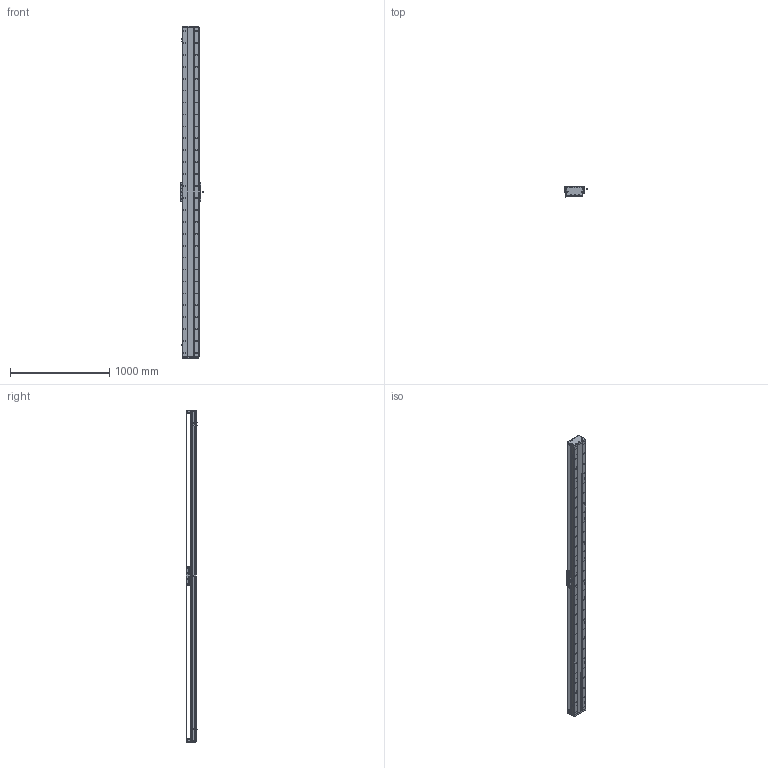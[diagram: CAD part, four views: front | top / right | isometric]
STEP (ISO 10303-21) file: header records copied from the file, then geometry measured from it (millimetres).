
FILE_DESCRIPTION (( 'STEP AP203' ), '1' );
FILE_NAME ('DA-C165-C2-T3060-C010-0.2 直线电机.STEP', '2023-05-11T07:54:47', ( '微软用户' ), ( '微软中国' ), 'SwSTEP 2.0', 'SolidWorks 2019', '' );
FILE_SCHEMA (( 'CONFIG_CONTROL_DESIGN' ));
Length unit declared in the file: millimetre
Products named in the file (18): 珨极趙賑雄怢啣wf-C2; 葩璃 CKM01-W075-TRL^DA-C165-C2-T-C010-0.2-N 眻盄萇儂; 复件 XD-U-02L 磁栅尺^DA-C165-C2-T-C010-0.2-N 直线电机_T; 葩璃 PM-T45^DA-C165-C2-T-C010-0.2-N 眻盄萇儂; DA-C165-C2-T3060-C010-0.2 眻盄萇儂; 复件 DMA-010-0.2 读数头^DA-C165-C2-T-C010-0.2-N 直线电机; 复件 CKM02-W075-C1C2-TP-3.0 一体电机-C2^DA-C165-C2-T-C010-0.2-N 直线电机; 复件 DA165-GYP-00 光电感应片^DA-C165-C2-T-C010-0.2-N 直线电机; 复件 六角薄螺母 M3^DA-C165-C2-T-C010-0.2-N 直线电机_GB_FASTENER_NUT_STNAB M3-C; 复件 DA165-GD-DG-H-00 端盖^复件 CU165钢带组件_DA-C165-C2-T-C010-0.2-N 直线电机; 复件 DA165-GDLK-00 钢带拉块^复件 CU165钢带组件_DA-C165-C2-T-C010-0.2-N 直线电机; 复件 DA165-GDYK-00 钢带压块^复件 CU165钢带组件_DA-C165-C2-T-C010-0.2-N 直线电机; 复件 CU165钢带组件^DA-C165-C2-T-C010-0.2-N 直线电机; IU-CU165-L-00 菁釱_L3300; 复件 DA95-HXJ-00 缓冲橡胶^DA-C165-C2-T-C010-0.2-N 直线电机; 葩璃 DA95-GT-T-00^IU-CU165-L 菁釱絳寢_T; 复件 DA165-GD-1860-002-00 钢带盖板^复件 CU165钢带组件_DA-C165-C2-T-C010-0.2-N 直线电机; IU-CU165-L 菁釱絳寢
Assembly tree (33 placements, depth 3):
  DA-C165-C2-T3060-C010-0.2 眻盄萇儂
    IU-CU165-L 菁釱絳寢
      IU-CU165-L-00 菁釱_L3300
      葩璃 DA95-GT-T-00^IU-CU165-L 菁釱絳寢_T  x4
    复件 XD-U-02L 磁栅尺^DA-C165-C2-T-C010-0.2-N 直线电机_T
    葩璃 PM-T45^DA-C165-C2-T-C010-0.2-N 眻盄萇儂  x3
    葩璃 CKM01-W075-TRL^DA-C165-C2-T-C010-0.2-N 眻盄萇儂
    复件 CU165钢带组件^DA-C165-C2-T-C010-0.2-N 直线电机
      复件 DA165-GD-DG-H-00 端盖^复件 CU165钢带组件_DA-C165-C2-T-C010-0.2-N 直线电机  x2
      复件 DA165-GDYK-00 钢带压块^复件 CU165钢带组件_DA-C165-C2-T-C010-0.2-N 直线电机  x2
      复件 DA165-GD-1860-002-00 钢带盖板^复件 CU165钢带组件_DA-C165-C2-T-C010-0.2-N 直线电机
      复件 DA165-GDLK-00 钢带拉块^复件 CU165钢带组件_DA-C165-C2-T-C010-0.2-N 直线电机  x2
    复件 DA95-HXJ-00 缓冲橡胶^DA-C165-C2-T-C010-0.2-N 直线电机  x4
    复件 DA165-GYP-00 光电感应片^DA-C165-C2-T-C010-0.2-N 直线电机
    复件 DMA-010-0.2 读数头^DA-C165-C2-T-C010-0.2-N 直线电机
    复件 CKM02-W075-C1C2-TP-3.0 一体电机-C2^DA-C165-C2-T-C010-0.2-N 直线电机
    复件 六角薄螺母 M3^DA-C165-C2-T-C010-0.2-N 直线电机_GB_FASTENER_NUT_STNAB M3-C  x6
    珨极趙賑雄怢啣wf-C2
Bounding box: 233 x 111.45 x 3340 mm (x, y, z)
Volume: 18000441.1 mm3; surface area: 5494638.7 mm2
Topology: 70 solids, 70 shells, 4251 faces, 12803 edges, 8229 vertices
Faces by surface type: cylinder 2645, plane 1126, cone 430, torus 46, sphere 4
Entity records: 149859 total; most frequent: CARTESIAN_POINT 42361, ORIENTED_EDGE 22778, DIRECTION 21459, EDGE_CURVE 11389, AXIS2_PLACEMENT_3D 8239, VERTEX_POINT 7465, EDGE_LOOP 5134, VECTOR 4981
